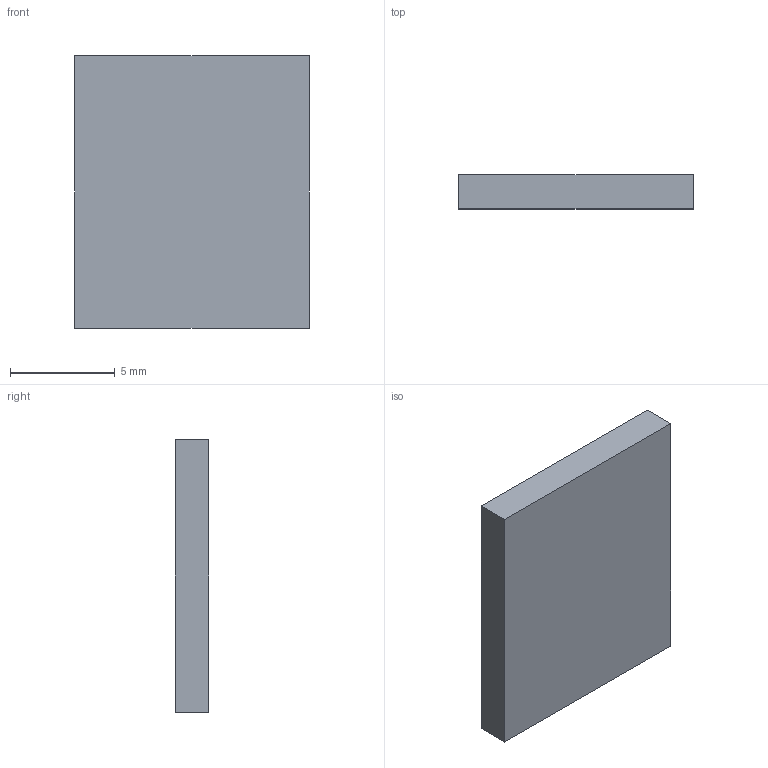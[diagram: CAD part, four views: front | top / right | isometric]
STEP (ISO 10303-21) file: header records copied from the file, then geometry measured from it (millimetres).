
FILE_DESCRIPTION(('Open CASCADE Model'),'2;1');
FILE_NAME('Open CASCADE Shape Model','2026-08-18T10:55:09',('Author'),( 'Open CASCADE'),'Open CASCADE STEP processor 7.9','Open CASCADE 7.9' ,'Unknown');
FILE_SCHEMA(('AUTOMOTIVE_DESIGN { 1 0 10303 214 1 1 1 1 }'));
Length unit declared in the file: millimetre
Products named in the file (1): wireless_module_shield
Bounding box: 11.21 x 1.6 x 13 mm (x, y, z)
Volume: 233.2 mm3; surface area: 368.9 mm2
Topology: 1 solids, 1 shells, 6 faces, 12 edges, 8 vertices
Faces by surface type: plane 6
Entity records: 322 total; most frequent: CARTESIAN_POINT 51, DIRECTION 50, LINE 36, VECTOR 36, ORIENTED_EDGE 24, PCURVE 24, DEFINITIONAL_REPRESENTATION 24, EDGE_CURVE 12
